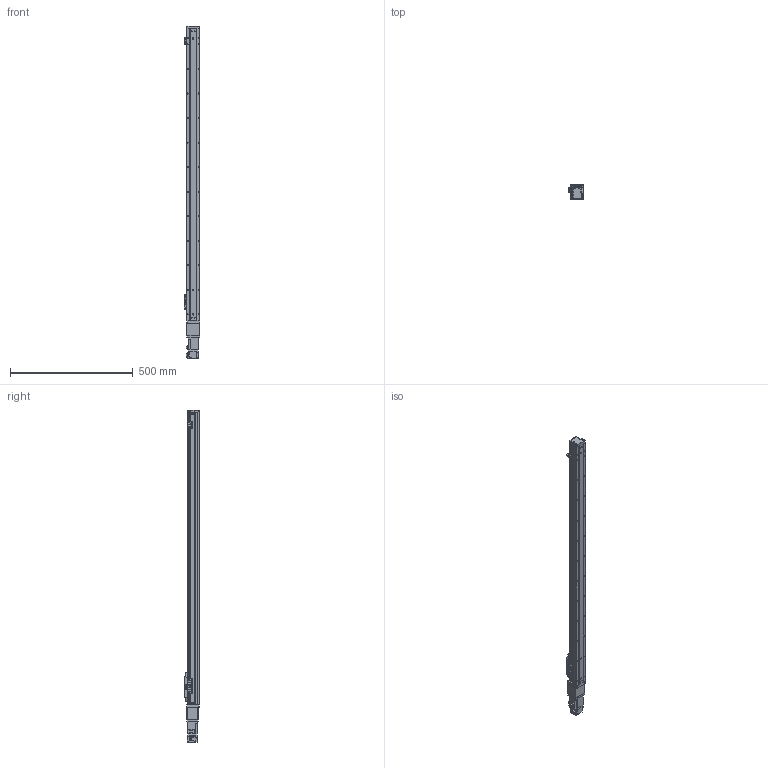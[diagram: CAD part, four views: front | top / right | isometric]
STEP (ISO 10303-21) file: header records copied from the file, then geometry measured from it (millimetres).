
FILE_DESCRIPTION (( 'STEP AP203' ), '1' );
FILE_NAME ('GTH5-1050-BC-M10-C4.step', '2023-08-28T00:46:40', ( '微软用户' ), ( '微软中国' ), 'SwSTEP 2.0', 'SolidWorks 2020', '' );
FILE_SCHEMA (( 'CONFIG_CONTROL_DESIGN' ));
Length unit declared in the file: millimetre
Products named in the file (20): GBT 70.1-M2.5×6; GBT 70.3-M3℅6; GTH5-1050-BC-M10-C4; GTH50-028; BTH-M3X5X6; GTH50-013; GTH50-022-1; GTH50-001_1050; GTH50-023; CTHA60-027; GBT 70.1-M4×16; GBT 70.1-M3℅6; CTHA60-013; GTH50-003; GBT96.1-2002 3×0.8; GTH50-006; CTHA60-006-2_CTHA60-006-1; GTH50-024; GTH50-004; HG-KR13
Assembly tree (60 placements, depth 2):
  GTH5-1050-BC-M10-C4
    GTH50-006
    GTH50-004
    GBT 70.3-M3℅6  x6
    BTH-M3X5X6  x8
    GTH50-001_1050
    GBT 70.1-M4×16  x8
    GTH50-003
    GTH50-013
    GTH50-023  x3
    GBT 70.1-M3℅6  x12
    GBT96.1-2002 3×0.8  x6
    GTH50-024  x3
    GBT 70.1-M2.5×6  x2
    GTH50-028  x2
    GTH50-022-1
    CTHA60-027
    CTHA60-013
    CTHA60-006-2_CTHA60-006-1
    HG-KR13
Bounding box: 63.8 x 60 x 1352.6 mm (x, y, z)
Volume: 2793383.4 mm3; surface area: 406440.1 mm2
Topology: 62 solids, 62 shells, 2073 faces, 4776 edges, 2918 vertices
Faces by surface type: plane 1105, cylinder 567, cone 235, torus 158, sphere 8
Entity records: 34995 total; most frequent: DIRECTION 5675, CARTESIAN_POINT 5535, ORIENTED_EDGE 5238, EDGE_CURVE 2619, AXIS2_PLACEMENT_3D 1964, LINE 1747, VECTOR 1747, VERTEX_POINT 1658
